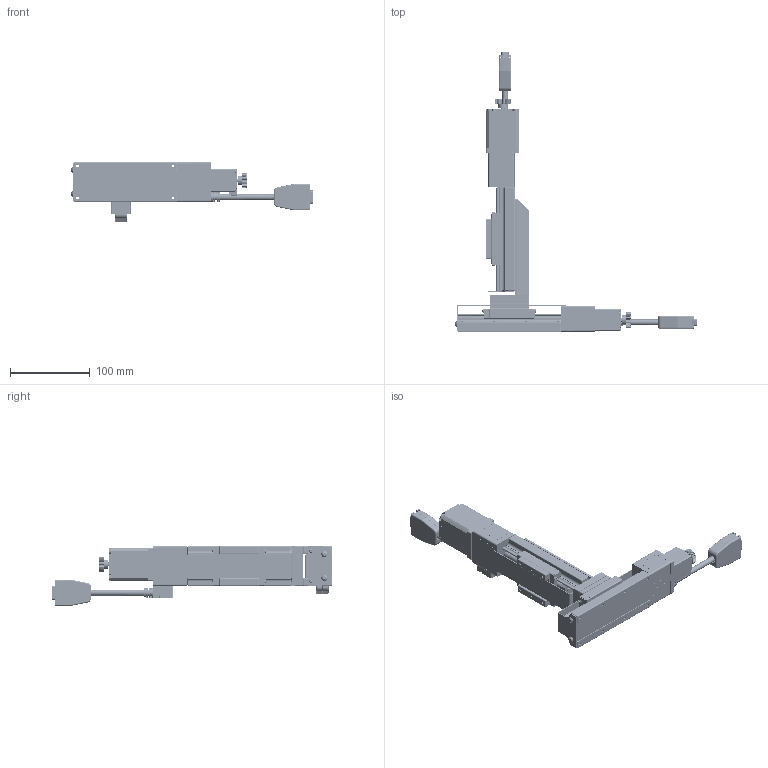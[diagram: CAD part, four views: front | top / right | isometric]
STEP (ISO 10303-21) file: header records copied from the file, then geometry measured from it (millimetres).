
FILE_DESCRIPTION (( 'STEP AP203' ), '1' );
FILE_NAME ('CXC5050-S2?N.STEP', '2023-10-02T06:31:18', ( '' ), ( '' ), 'SwSTEP 2.0', 'SolidWorks 2019', '' );
FILE_SCHEMA (( 'CONFIG_CONTROL_DESIGN' ));
Products named in the file (7): Group1^CXC5050-S2_N(2023_s__)_defeature_GMT.STEP_GMT; CZLC5050-S2?N.STEP; Group2^CZLC5050-S2_N(2023_s__)_defeature_GMT.STEP_GMT; Group2^CXC5050-S2_N(2023_s__)_defeature_GMT.STEP_GMT; CXC5050-S2?N; CXC5050-S2?N.STEP; Group1^CZLC5050-S2_N(2023_s__)_defeature_GMT.STEP_GMT
Assembly tree (6 placements, depth 3):
  CXC5050-S2?N
    CXC5050-S2?N.STEP
      Group1^CXC5050-S2_N(2023_s__)_defeature_GMT.STEP_GMT
      Group2^CXC5050-S2_N(2023_s__)_defeature_GMT.STEP_GMT
    CZLC5050-S2?N.STEP
      Group1^CZLC5050-S2_N(2023_s__)_defeature_GMT.STEP_GMT
      Group2^CZLC5050-S2_N(2023_s__)_defeature_GMT.STEP_GMT
Bounding box: 303.8 x 352.6 x 75 mm (x, y, z)
Surface area: 247596.1 mm2 (no closed solid volume)
Topology: 0 solids, 85 shells, 7741 faces, 20416 edges, 12643 vertices
Faces by surface type: plane 3085, cylinder 2312, torus 816, cone 661, bspline 585, sphere 282
Entity records: 304349 total; most frequent: CARTESIAN_POINT 153038, ORIENTED_EDGE 39638, EDGE_CURVE 20046, B_SPLINE_CURVE_WITH_KNOTS 17614, DIRECTION 17597, VERTEX_POINT 12637, AXIS2_PLACEMENT_3D 8284, EDGE_LOOP 8194
